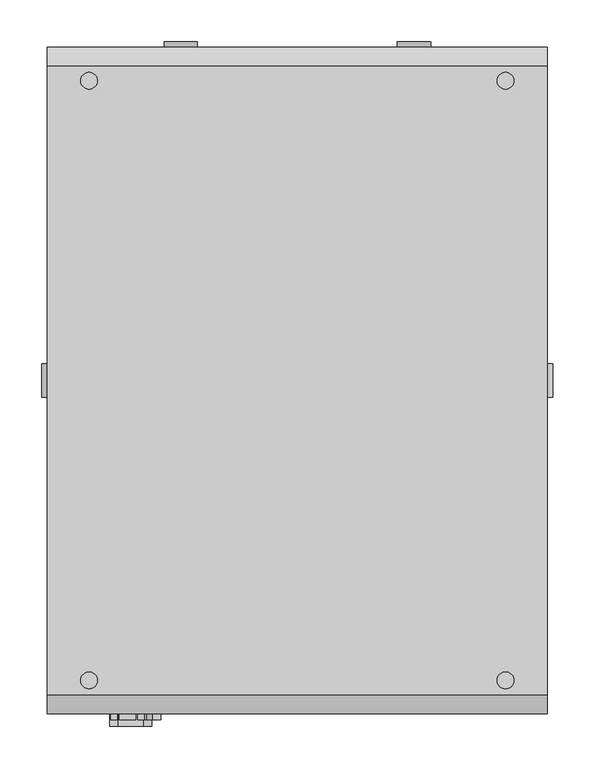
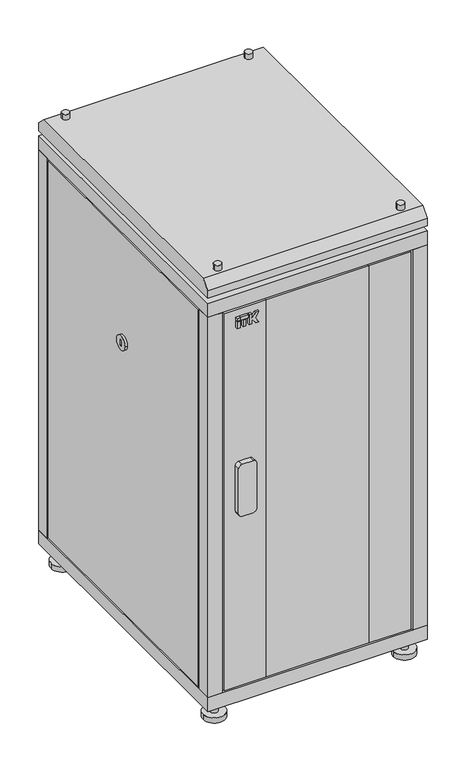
"""IFC4 building model written with IfcOpenShell, lengths in millimetres: proxy geometry, Шкафы ITK серия N_05 : LN05-24U68-G."""

from ifc_helpers import new_model, si_unit, point, frame, frame_2d, origin, origin_with_axes, place, context, project, spatial, polyline, circle_curve, trimmed, segment, composite_curve, outline, extrude, faceted_brep, source, transform, mapped, element, save
from ifc_brep_helpers import plane_surface, cylinder_surface, advanced_brep


def electrical_fixtures_91b9e2a3(model_context):
    return source(origin(), model_context, "Body", "SolidModel", [
        extrude(outline(polyline([(-215.9746193, -407.0), (-224.197592, -407.0), (-224.197592, -400.0), (-215.9746193, -400.0), (-215.9746193, -407.0)])), frame((0.0, 0.0, 1135.0), z_axis=(0.0, 0.0, 1.0), x_axis=(1.0, 0.0, 0.0)), (0.0, 0.0, 1.0), 18.8087618),
        extrude(outline(polyline([(-199.9605777, -407.0), (-207.7053315, -407.0), (-207.7053315, -400.0), (-199.9605777, -400.0), (-199.9605777, -407.0)])), frame((0.0, 0.0, 1135.0), z_axis=(0.0, 0.0, 1.0), x_axis=(1.0, 0.0, 0.0)), (0.0, 0.0, 1.0), 18.8087618),
        extrude(outline(polyline([(-215.9746193, -407.0), (-224.197592, -407.0), (-224.197592, -400.0), (-215.9746193, -400.0), (-215.9746193, -407.0)])), frame((0.0, 0.0, 1156.4305892), z_axis=(0.0, 0.0, 1.0), x_axis=(1.0, 0.0, 0.0)), (0.0, 0.0, 1.0), 7.9794747),
        extrude(outline(polyline([(1135.0, -191.5184175), (1135.0, -183.7669278), (1146.0271455, -183.7669278), (1146.0271455, -180.8031229), (1135.0, -173.6420108), (1135.0, -164.197592), (1149.7278745, -174.8980192), (1164.410064, -164.197592), (1164.410064, -173.6420108), (1153.3829184, -180.8031229), (1153.3829184, -183.7669278), (1164.410064, -183.7669278), (1164.410064, -191.5184175), (1135.0, -191.5184175)])), frame((0.0, -407.0, 0.0), z_axis=(0.0, 1.0, 0.0), x_axis=(0.0, 0.0, 1.0)), (0.0, 0.0, 1.0), 7.0),
        extrude(outline(polyline([(-194.0851324, -407.0), (-213.5807768, -407.0), (-213.5807768, -400.0), (-194.0851324, -400.0), (-194.0851324, -407.0)])), frame((0.0, 0.0, 1156.4305892), z_axis=(0.0, 0.0, 1.0), x_axis=(1.0, 0.0, 0.0)), (0.0, 0.0, 1.0), 7.9794747),
        extrude(outline(composite_curve([segment(polyline([(745.0, -185.0), (745.0, -215.0)]), True, "CONTINUOUS"), segment(trimmed(circle_curve(frame_2d((735.0, -215.0)), 10.0), [point((745.0, -215.0))], [point((735.0, -225.0))], False, "CARTESIAN"), True, "CONTINUOUS"), segment(polyline([(735.0, -225.0), (605.0, -225.0)]), True, "CONTINUOUS"), segment(trimmed(circle_curve(frame_2d((605.0, -215.0)), 10.0), [point((605.0, -225.0))], [point((595.0, -215.0))], False, "CARTESIAN"), True, "CONTINUOUS"), segment(polyline([(595.0, -215.0), (595.0, -185.0)]), True, "CONTINUOUS"), segment(trimmed(circle_curve(frame_2d((605.0, -185.0)), 10.0), [point((595.0, -185.0))], [point((605.0, -175.0))], False, "CARTESIAN"), True, "CONTINUOUS"), segment(polyline([(605.0, -175.0), (735.0, -175.0)]), True, "CONTINUOUS"), segment(trimmed(circle_curve(frame_2d((735.0, -185.0)), 10.0), [point((735.0, -175.0))], [point((745.0, -185.0))], False, "CARTESIAN"), True, "CONTINUOUS")], self_intersect=False)), frame((0.0, -415.0, 0.0), z_axis=(0.0, 1.0, 0.0), x_axis=(0.0, 0.0, 1.0)), (0.0, 0.0, 1.0), 15.0),
        extrude(outline(polyline([(140.0, -380.0), (140.0, -400.0), (-140.0, -400.0), (-140.0, -380.0), (140.0, -380.0)])), frame((0.0, 0.0, 95.0), z_axis=(0.0, 0.0, 1.0), x_axis=(1.0, 0.0, 0.0)), (0.0, 0.0, 1.0), 1090.0),
        extrude(outline(polyline([(255.0, -380.0), (255.0, -400.0), (140.0, -400.0), (140.0, -380.0), (235.0, -380.0), (235.0, -365.0), (245.0, -365.0), (245.0, -380.0), (255.0, -380.0)])), frame((0.0, 0.0, 95.0), z_axis=(0.0, 0.0, 1.0), x_axis=(1.0, 0.0, 0.0)), (0.0, 0.0, 1.0), 1090.0),
        extrude(outline(polyline([(-140.0, -400.0), (-255.0, -400.0), (-255.0, -380.0), (-245.0, -380.0), (-245.0, -365.0), (-235.0, -365.0), (-235.0, -380.0), (-140.0, -380.0), (-140.0, -400.0)])), frame((0.0, 0.0, 95.0), z_axis=(0.0, 0.0, 1.0), x_axis=(1.0, 0.0, 0.0)), (0.0, 0.0, 1.0), 1090.0),
        extrude(outline(composite_curve([segment(trimmed(circle_curve(frame_2d((-260.0, 360.0)), 10.0), [point((-250.0, 360.0))], [point((-270.0, 360.0))], False, "CARTESIAN"), True, "CONTINUOUS"), segment(trimmed(circle_curve(frame_2d((-260.0, 360.0)), 10.0), [point((-270.0, 360.0))], [point((-250.0, 360.0))], False, "CARTESIAN"), True, "CONTINUOUS")], self_intersect=False)), frame((0.0, 0.0, 15.0), z_axis=(0.0, 0.0, 1.0), x_axis=(1.0, 0.0, 0.0)), (0.0, 0.0, 1.0), 35.0),
        extrude(outline(composite_curve([segment(trimmed(circle_curve(frame_2d((260.0, 360.0)), 10.0), [point((270.0, 360.0))], [point((250.0, 360.0))], False, "CARTESIAN"), True, "CONTINUOUS"), segment(trimmed(circle_curve(frame_2d((260.0, 360.0)), 10.0), [point((250.0, 360.0))], [point((270.0, 360.0))], False, "CARTESIAN"), True, "CONTINUOUS")], self_intersect=False)), frame((0.0, 0.0, 15.0), z_axis=(0.0, 0.0, 1.0), x_axis=(1.0, 0.0, 0.0)), (0.0, 0.0, 1.0), 35.0),
        extrude(outline(composite_curve([segment(trimmed(circle_curve(frame_2d((-260.0, -360.0)), 10.0), [point((-250.0, -360.0))], [point((-270.0, -360.0))], False, "CARTESIAN"), True, "CONTINUOUS"), segment(trimmed(circle_curve(frame_2d((-260.0, -360.0)), 10.0), [point((-270.0, -360.0))], [point((-250.0, -360.0))], False, "CARTESIAN"), True, "CONTINUOUS")], self_intersect=False)), frame((0.0, 0.0, 15.0), z_axis=(0.0, 0.0, 1.0), x_axis=(1.0, 0.0, 0.0)), (0.0, 0.0, 1.0), 35.0),
        extrude(outline(composite_curve([segment(trimmed(circle_curve(frame_2d((260.0, -360.0)), 10.0), [point((270.0, -360.0))], [point((250.0, -360.0))], False, "CARTESIAN"), True, "CONTINUOUS"), segment(trimmed(circle_curve(frame_2d((260.0, -360.0)), 10.0), [point((250.0, -360.0))], [point((270.0, -360.0))], False, "CARTESIAN"), True, "CONTINUOUS")], self_intersect=False)), frame((0.0, 0.0, 15.0), z_axis=(0.0, 0.0, 1.0), x_axis=(1.0, 0.0, 0.0)), (0.0, 0.0, 1.0), 35.0),
        extrude(outline(composite_curve([segment(trimmed(circle_curve(frame_2d((-260.0, 360.0)), 30.0), [point((-230.0, 360.0))], [point((-290.0, 360.0))], False, "CARTESIAN"), True, "CONTINUOUS"), segment(trimmed(circle_curve(frame_2d((-260.0, 360.0)), 30.0), [point((-290.0, 360.0))], [point((-230.0, 360.0))], False, "CARTESIAN"), True, "CONTINUOUS")], self_intersect=False)), origin_with_axes(), (0.0, 0.0, 1.0), 15.0),
        extrude(outline(composite_curve([segment(trimmed(circle_curve(frame_2d((260.0, 360.0)), 30.0), [point((290.0, 360.0))], [point((230.0, 360.0))], False, "CARTESIAN"), True, "CONTINUOUS"), segment(trimmed(circle_curve(frame_2d((260.0, 360.0)), 30.0), [point((230.0, 360.0))], [point((290.0, 360.0))], False, "CARTESIAN"), True, "CONTINUOUS")], self_intersect=False)), origin_with_axes(), (0.0, 0.0, 1.0), 15.0),
        extrude(outline(composite_curve([segment(trimmed(circle_curve(frame_2d((-260.0, -360.0)), 30.0), [point((-230.0, -360.0))], [point((-290.0, -360.0))], False, "CARTESIAN"), True, "CONTINUOUS"), segment(trimmed(circle_curve(frame_2d((-260.0, -360.0)), 30.0), [point((-290.0, -360.0))], [point((-230.0, -360.0))], False, "CARTESIAN"), True, "CONTINUOUS")], self_intersect=False)), origin_with_axes(), (0.0, 0.0, 1.0), 15.0),
        extrude(outline(composite_curve([segment(trimmed(circle_curve(frame_2d((260.0, -360.0)), 30.0), [point((290.0, -360.0))], [point((230.0, -360.0))], False, "CARTESIAN"), True, "CONTINUOUS"), segment(trimmed(circle_curve(frame_2d((260.0, -360.0)), 30.0), [point((230.0, -360.0))], [point((290.0, -360.0))], False, "CARTESIAN"), True, "CONTINUOUS")], self_intersect=False)), origin_with_axes(), (0.0, 0.0, 1.0), 15.0),
        advanced_brep(
        [(260.0, 360.0, 1305.0), (240.0, 360.0, 1305.0), (260.0, -360.0, 1305.0), (240.0, -360.0, 1305.0), (-240.0, 360.0, 1305.0), (-260.0, 360.0, 1305.0), (-240.0, -360.0, 1305.0), (-260.0, -360.0, 1305.0), (260.0, 360.0, 1230.0), (240.0, 360.0, 1230.0), (260.0, -360.0, 1230.0), (240.0, -360.0, 1230.0), (-240.0, 360.0, 1230.0), (-260.0, 360.0, 1230.0), (-240.0, -360.0, 1230.0), (-260.0, -360.0, 1230.0), (260.0, 360.0, 1290.0), (240.0, 360.0, 1290.0), (240.0, 360.0, 1245.0), (260.0, 360.0, 1245.0), (260.0, -360.0, 1290.0), (240.0, -360.0, 1290.0), (240.0, -360.0, 1245.0), (260.0, -360.0, 1245.0), (-240.0, 360.0, 1290.0), (-260.0, 360.0, 1290.0), (-260.0, 360.0, 1245.0), (-240.0, 360.0, 1245.0), (-240.0, -360.0, 1290.0), (-260.0, -360.0, 1290.0), (-260.0, -360.0, 1245.0), (-240.0, -360.0, 1245.0), (300.0, 377.5, 1290.0), (300.0, -377.5, 1290.0), (300.0, -400.0, 1267.5), (300.0, -400.0, 1245.0), (300.0, 400.0, 1245.0), (300.0, 400.0, 1267.5), (-300.0, 377.5, 1290.0), (-300.0, 400.0, 1267.5), (-300.0, 400.0, 1245.0), (-300.0, -400.0, 1245.0), (-300.0, -400.0, 1267.5), (-300.0, -377.5, 1290.0)],
        [
            (0, 1, circle_curve(frame((250.0, 360.0, 1305.0), z_axis=(0.0, 0.0, 1.0), x_axis=(-1.0, 0.0, 0.0)), 10.0)),
            (1, 0, circle_curve(frame((250.0, 360.0, 1305.0), z_axis=(0.0, 0.0, 1.0), x_axis=(-1.0, 0.0, 0.0)), 10.0)),
            (2, 3, circle_curve(frame((250.0, -360.0, 1305.0), z_axis=(0.0, 0.0, 1.0), x_axis=(-1.0, 0.0, 0.0)), 10.0)),
            (3, 2, circle_curve(frame((250.0, -360.0, 1305.0), z_axis=(0.0, 0.0, 1.0), x_axis=(-1.0, 0.0, 0.0)), 10.0)),
            (4, 5, circle_curve(frame((-250.0, 360.0, 1305.0), z_axis=(0.0, 0.0, 1.0), x_axis=(-1.0, 0.0, 0.0)), 10.0)),
            (5, 4, circle_curve(frame((-250.0, 360.0, 1305.0), z_axis=(0.0, 0.0, 1.0), x_axis=(-1.0, 0.0, 0.0)), 10.0)),
            (6, 7, circle_curve(frame((-250.0, -360.0, 1305.0), z_axis=(0.0, 0.0, 1.0), x_axis=(-1.0, 0.0, 0.0)), 10.0)),
            (7, 6, circle_curve(frame((-250.0, -360.0, 1305.0), z_axis=(0.0, 0.0, 1.0), x_axis=(-1.0, 0.0, 0.0)), 10.0)),
            (8, 9, circle_curve(frame((250.0, 360.0, 1230.0), z_axis=(0.0, 0.0, -1.0), x_axis=(-1.0, 0.0, 0.0)), 10.0)),
            (9, 8, circle_curve(frame((250.0, 360.0, 1230.0), z_axis=(0.0, 0.0, -1.0), x_axis=(-1.0, 0.0, 0.0)), 10.0)),
            (10, 11, circle_curve(frame((250.0, -360.0, 1230.0), z_axis=(0.0, 0.0, -1.0), x_axis=(-1.0, 0.0, 0.0)), 10.0)),
            (11, 10, circle_curve(frame((250.0, -360.0, 1230.0), z_axis=(0.0, 0.0, -1.0), x_axis=(-1.0, 0.0, 0.0)), 10.0)),
            (12, 13, circle_curve(frame((-250.0, 360.0, 1230.0), z_axis=(0.0, 0.0, -1.0), x_axis=(-1.0, 0.0, 0.0)), 10.0)),
            (13, 12, circle_curve(frame((-250.0, 360.0, 1230.0), z_axis=(0.0, 0.0, -1.0), x_axis=(-1.0, 0.0, 0.0)), 10.0)),
            (14, 15, circle_curve(frame((-250.0, -360.0, 1230.0), z_axis=(0.0, 0.0, -1.0), x_axis=(-1.0, 0.0, 0.0)), 10.0)),
            (15, 14, circle_curve(frame((-250.0, -360.0, 1230.0), z_axis=(0.0, 0.0, -1.0), x_axis=(-1.0, 0.0, 0.0)), 10.0)),
            (0, 16),
            (16, 17, circle_curve(frame((250.0, 360.0, 1290.0), z_axis=(0.0, 0.0, 1.0), x_axis=(-1.0, 0.0, 0.0)), 10.0)),
            (17, 1),
            (9, 18),
            (18, 19, circle_curve(frame((250.0, 360.0, 1245.0), z_axis=(0.0, 0.0, -1.0), x_axis=(-1.0, 0.0, 0.0)), 10.0)),
            (19, 8),
            (17, 16, circle_curve(frame((250.0, 360.0, 1290.0), z_axis=(0.0, 0.0, 1.0), x_axis=(-1.0, 0.0, 0.0)), 10.0)),
            (19, 18, circle_curve(frame((250.0, 360.0, 1245.0), z_axis=(0.0, 0.0, -1.0), x_axis=(-1.0, 0.0, 0.0)), 10.0)),
            (2, 20),
            (20, 21, circle_curve(frame((250.0, -360.0, 1290.0), z_axis=(0.0, 0.0, 1.0), x_axis=(-1.0, 0.0, 0.0)), 10.0)),
            (21, 3),
            (11, 22),
            (22, 23, circle_curve(frame((250.0, -360.0, 1245.0), z_axis=(0.0, 0.0, -1.0), x_axis=(-1.0, 0.0, 0.0)), 10.0)),
            (23, 10),
            (21, 20, circle_curve(frame((250.0, -360.0, 1290.0), z_axis=(0.0, 0.0, 1.0), x_axis=(-1.0, 0.0, 0.0)), 10.0)),
            (23, 22, circle_curve(frame((250.0, -360.0, 1245.0), z_axis=(0.0, 0.0, -1.0), x_axis=(-1.0, 0.0, 0.0)), 10.0)),
            (4, 24),
            (24, 25, circle_curve(frame((-250.0, 360.0, 1290.0), z_axis=(0.0, 0.0, 1.0), x_axis=(-1.0, 0.0, 0.0)), 10.0)),
            (25, 5),
            (13, 26),
            (26, 27, circle_curve(frame((-250.0, 360.0, 1245.0), z_axis=(0.0, 0.0, -1.0), x_axis=(-1.0, 0.0, 0.0)), 10.0)),
            (27, 12),
            (25, 24, circle_curve(frame((-250.0, 360.0, 1290.0), z_axis=(0.0, 0.0, 1.0), x_axis=(-1.0, 0.0, 0.0)), 10.0)),
            (27, 26, circle_curve(frame((-250.0, 360.0, 1245.0), z_axis=(0.0, 0.0, -1.0), x_axis=(-1.0, 0.0, 0.0)), 10.0)),
            (6, 28),
            (28, 29, circle_curve(frame((-250.0, -360.0, 1290.0), z_axis=(0.0, 0.0, 1.0), x_axis=(-1.0, 0.0, 0.0)), 10.0)),
            (29, 7),
            (15, 30),
            (30, 31, circle_curve(frame((-250.0, -360.0, 1245.0), z_axis=(0.0, 0.0, -1.0), x_axis=(-1.0, 0.0, 0.0)), 10.0)),
            (31, 14),
            (29, 28, circle_curve(frame((-250.0, -360.0, 1290.0), z_axis=(0.0, 0.0, 1.0), x_axis=(-1.0, 0.0, 0.0)), 10.0)),
            (31, 30, circle_curve(frame((-250.0, -360.0, 1245.0), z_axis=(0.0, 0.0, -1.0), x_axis=(-1.0, 0.0, 0.0)), 10.0)),
            (32, 33),
            (33, 34),
            (34, 35),
            (35, 36),
            (36, 37),
            (37, 32),
            (38, 39),
            (39, 40),
            (40, 41),
            (41, 42),
            (42, 43),
            (43, 38),
            (32, 38),
            (43, 33),
            (42, 34),
            (41, 35),
            (40, 36),
            (39, 37),
        ],
        [
            plane_surface(frame((240.0, 360.0, 1305.0), z_axis=(0.0, 0.0, 1.0), x_axis=(0.0, -1.0, 0.0))),
            plane_surface(frame((240.0, 360.0, 1230.0), z_axis=(0.0, 0.0, -1.0), x_axis=(0.0, 1.0, 0.0))),
            cylinder_surface(frame((250.0, 360.0, 1230.0), z_axis=(0.0, 0.0, 1.0), x_axis=(-1.0, 0.0, 0.0)), 10.0),
            cylinder_surface(frame((250.0, -360.0, 1710.0), z_axis=(0.0, 0.0, 1.0), x_axis=(-1.0, 0.0, 0.0)), 10.0),
            cylinder_surface(frame((-250.0, 360.0, 1710.0), z_axis=(0.0, 0.0, 1.0), x_axis=(-1.0, 0.0, 0.0)), 10.0),
            cylinder_surface(frame((-250.0, -360.0, 1710.0), z_axis=(0.0, 0.0, 1.0), x_axis=(-1.0, 0.0, 0.0)), 10.0),
            plane_surface(frame((300.0, -377.5, 1290.0), z_axis=(1.0, 0.0, 0.0), x_axis=(0.0, -1.0, 0.0))),
            plane_surface(frame((-300.0, -377.5, 1290.0), z_axis=(-1.0, 0.0, 0.0), x_axis=(0.0, 1.0, 0.0))),
            plane_surface(frame((300.0, 377.5, 1290.0), z_axis=(0.0, 0.0, 1.0), x_axis=(-1.0, 0.0, 0.0))),
            plane_surface(frame((300.0, -377.5, 1290.0), z_axis=(0.0, -0.7071067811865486, 0.7071067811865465), x_axis=(-1.0, 0.0, 0.0))),
            plane_surface(frame((300.0, -400.0, 1267.5), z_axis=(0.0, -1.0, 0.0), x_axis=(-1.0, 0.0, 0.0))),
            plane_surface(frame((300.0, -400.0, 1245.0), z_axis=(0.0, 0.0, -1.0), x_axis=(-1.0, 0.0, 0.0))),
            plane_surface(frame((300.0, 400.0, 1245.0), z_axis=(0.0, 1.0, 0.0), x_axis=(-1.0, 0.0, 0.0))),
            plane_surface(frame((300.0, 400.0, 1267.5), z_axis=(0.0, 0.7071067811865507, 0.7071067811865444), x_axis=(-1.0, 0.0, 0.0))),
        ],
        [
            (0, [[1, 2]]),
            (0, [[3, 4]]),
            (0, [[5, 6]]),
            (0, [[7, 8]]),
            (1, [[9, 10]]),
            (1, [[11, 12]]),
            (1, [[13, 14]]),
            (1, [[15, 16]]),
            (2, [[-1, 17, 18, 19]]),
            (2, [[-10, 20, 21, 22]]),
            (2, [[-2, -19, 23, -17]]),
            (2, [[-9, -22, 24, -20]]),
            (3, [[-3, 25, 26, 27]]),
            (3, [[-12, 28, 29, 30]]),
            (3, [[-4, -27, 31, -25]]),
            (3, [[-11, -30, 32, -28]]),
            (4, [[-5, 33, 34, 35]]),
            (4, [[-14, 36, 37, 38]]),
            (4, [[-6, -35, 39, -33]]),
            (4, [[-13, -38, 40, -36]]),
            (5, [[-7, 41, 42, 43]]),
            (5, [[-16, 44, 45, 46]]),
            (5, [[-8, -43, 47, -41]]),
            (5, [[-15, -46, 48, -44]]),
            (6, [[49, 50, 51, 52, 53, 54]]),
            (7, [[55, 56, 57, 58, 59, 60]]),
            (8, [[-49, 61, -60, 62], [-18, -23], [-26, -31], [-34, -39], [-42, -47]]),
            (9, [[-50, -62, -59, 63]]),
            (10, [[-51, -63, -58, 64]]),
            (11, [[-52, -64, -57, 65], [-21, -24], [-29, -32], [-37, -40], [-45, -48]]),
            (12, [[-53, -65, -56, 66]]),
            (13, [[-54, -66, -55, -61]]),
        ],
    ),
        extrude(outline(polyline([(260.0, 360.0), (260.0, 345.0), (290.0, 345.0), (290.0, -345.0), (260.0, -345.0), (260.0, -360.0), (245.0, -360.0), (245.0, -380.0), (-245.0, -380.0), (-245.0, -360.0), (-260.0, -360.0), (-260.0, -345.0), (-290.0, -345.0), (-290.0, 345.0), (-260.0, 345.0), (-260.0, 360.0), (-245.0, 360.0), (-245.0, 390.0), (245.0, 390.0), (245.0, 360.0), (260.0, 360.0)])), frame((0.0, 0.0, 90.0), z_axis=(0.0, 0.0, 1.0), x_axis=(1.0, 0.0, 0.0)), (0.0, 0.0, 1.0), 5.0),
        extrude(outline(polyline([(260.0, 360.0), (260.0, 345.0), (290.0, 345.0), (290.0, -345.0), (260.0, -345.0), (260.0, -360.0), (245.0, -360.0), (245.0, -380.0), (-245.0, -380.0), (-245.0, -360.0), (-260.0, -360.0), (-260.0, -345.0), (-290.0, -345.0), (-290.0, 345.0), (-260.0, 345.0), (-260.0, 360.0), (-245.0, 360.0), (-245.0, 390.0), (245.0, 390.0), (245.0, 360.0), (260.0, 360.0)])), frame((0.0, 0.0, 1185.0), z_axis=(0.0, 0.0, 1.0), x_axis=(1.0, 0.0, 0.0)), (0.0, 0.0, 1.0), 5.0),
        extrude(outline(polyline([(300.0, -400.0), (-300.0, -400.0), (-300.0, 400.0), (300.0, 400.0), (300.0, -400.0)])), frame((0.0, 0.0, 1190.0), z_axis=(0.0, 0.0, 1.0), x_axis=(1.0, 0.0, 0.0)), (0.0, 0.0, 1.0), 40.0),
        extrude(outline(polyline([(300.0, -400.0), (-300.0, -400.0), (-300.0, 400.0), (300.0, 400.0), (300.0, -400.0)])), frame((0.0, 0.0, 50.0), z_axis=(0.0, 0.0, 1.0), x_axis=(1.0, 0.0, 0.0)), (0.0, 0.0, 1.0), 40.0),
        extrude(outline(composite_curve([segment(trimmed(circle_curve(frame_2d((640.0, 140.0)), 20.0), [point((640.0, 160.0))], [point((640.0, 120.0))], False, "CARTESIAN"), True, "CONTINUOUS"), segment(trimmed(circle_curve(frame_2d((640.0, 140.0)), 20.0), [point((640.0, 120.0))], [point((640.0, 160.0))], False, "CARTESIAN"), True, "CONTINUOUS")], self_intersect=False), holes=[polyline([(631.7814397, 137.0), (648.2185603, 137.0), (648.2185603, 143.0), (631.7814397, 143.0), (631.7814397, 137.0)])]), frame((0.0, 400.0, 0.0), z_axis=(0.0, 1.0, 0.0), x_axis=(0.0, 0.0, 1.0)), (0.0, 0.0, 1.0), 7.0),
        extrude(outline(composite_curve([segment(trimmed(circle_curve(frame_2d((640.0, -140.0)), 20.0), [point((640.0, -120.0))], [point((640.0, -160.0))], False, "CARTESIAN"), True, "CONTINUOUS"), segment(trimmed(circle_curve(frame_2d((640.0, -140.0)), 20.0), [point((640.0, -160.0))], [point((640.0, -120.0))], False, "CARTESIAN"), True, "CONTINUOUS")], self_intersect=False), holes=[polyline([(631.7814397, -143.0), (648.2185603, -143.0), (648.2185603, -137.0), (631.7814397, -137.0), (631.7814397, -143.0)])]), frame((0.0, 400.0, 0.0), z_axis=(0.0, 1.0, 0.0), x_axis=(0.0, 0.0, 1.0)), (0.0, 0.0, 1.0), 7.0),
        faceted_brep([(255.0, 400.0, 1185.0), (-255.0, 400.0, 1185.0), (-255.0, 370.0, 1185.0), (-245.0, 370.0, 1185.0), (-245.0, 390.0, 1185.0), (245.0, 390.0, 1185.0), (245.0, 370.0, 1185.0), (255.0, 370.0, 1185.0), (255.0, 400.0, 1012.5265979), (-255.0, 400.0, 1012.5265979), (175.0, 400.0, 1060.0), (175.0, 400.0, 1140.0), (-175.0, 400.0, 1140.0), (-175.0, 400.0, 1060.0), (-255.0, 370.0, 1012.5265979), (-245.0, 370.0, 1012.5265979), (-245.0, 390.0, 1012.5265979), (245.0, 390.0, 1012.5265979), (175.0, 390.0, 1140.0), (175.0, 390.0, 1060.0), (-175.0, 390.0, 1060.0), (-175.0, 390.0, 1140.0), (245.0, 370.0, 1012.5265979), (255.0, 370.0, 1012.5265979)], [[[0, 1, 2, 3, 4, 5, 6, 7]], [[1, 0, 8, 9], [10, 11, 12, 13]], [[2, 1, 9, 14]], [[3, 2, 14, 15]], [[4, 3, 15, 16]], [[5, 4, 16, 17], [18, 19, 20, 21]], [[6, 5, 17, 22]], [[7, 6, 22, 23]], [[0, 7, 23, 8]], [[9, 8, 23, 22, 17, 16, 15, 14]], [[10, 19, 18, 11]], [[11, 18, 21, 12]], [[12, 21, 20, 13]], [[19, 10, 13, 20]]]),
        faceted_brep([(255.0, 400.0, 95.0), (255.0, 370.0, 95.0), (245.0, 370.0, 95.0), (245.0, 390.0, 95.0), (-245.0, 390.0, 95.0), (-245.0, 370.0, 95.0), (-255.0, 370.0, 95.0), (-255.0, 400.0, 95.0), (-255.0, 400.0, 267.4734021), (255.0, 400.0, 267.4734021), (175.0, 400.0, 220.0), (-175.0, 400.0, 220.0), (-175.0, 400.0, 140.0), (175.0, 400.0, 140.0), (-255.0, 370.0, 267.4734021), (-245.0, 370.0, 267.4734021), (-245.0, 390.0, 267.4734021), (245.0, 390.0, 267.4734021), (-175.0, 390.0, 220.0), (175.0, 390.0, 220.0), (175.0, 390.0, 140.0), (-175.0, 390.0, 140.0), (245.0, 370.0, 267.4734021), (255.0, 370.0, 267.4734021)], [[[0, 1, 2, 3, 4, 5, 6, 7]], [[0, 7, 8, 9], [10, 11, 12, 13]], [[7, 6, 14, 8]], [[6, 5, 15, 14]], [[5, 4, 16, 15]], [[4, 3, 17, 16], [18, 19, 20, 21]], [[3, 2, 22, 17]], [[2, 1, 23, 22]], [[1, 0, 9, 23]], [[9, 8, 14, 15, 16, 17, 22, 23]], [[10, 19, 18, 11]], [[11, 18, 21, 12]], [[12, 21, 20, 13]], [[19, 10, 13, 20]]]),
        faceted_brep([(255.0, 400.0, 1007.4734021), (255.0, 400.0, 272.5265979), (-255.0, 400.0, 272.5265979), (-255.0, 400.0, 1007.4734021), (-255.0, 370.0, 272.5265979), (-255.0, 370.0, 1007.4734021), (-245.0, 370.0, 272.5265979), (-245.0, 370.0, 1007.4734021), (-245.0, 390.0, 272.5265979), (-245.0, 390.0, 1007.4734021), (245.0, 390.0, 272.5265979), (245.0, 390.0, 1007.4734021), (245.0, 370.0, 272.5265979), (245.0, 370.0, 1007.4734021), (255.0, 370.0, 272.5265979), (255.0, 370.0, 1007.4734021)], [[[0, 1, 2, 3]], [[3, 2, 4, 5]], [[5, 4, 6, 7]], [[7, 6, 8, 9]], [[9, 8, 10, 11]], [[11, 10, 12, 13]], [[13, 12, 14, 15]], [[1, 0, 15, 14]], [[2, 1, 14, 12, 10, 8, 6, 4]], [[0, 3, 5, 7, 9, 11, 13, 15]]]),
        faceted_brep([(-170.0, 400.0, 215.0), (170.0, 400.0, 215.0), (170.0, 400.0, 145.0), (-170.0, 400.0, 145.0), (170.0, 390.0, 215.0), (-170.0, 390.0, 215.0), (-170.0, 390.0, 145.0), (170.0, 390.0, 145.0)], [[[0, 1, 2, 3]], [[4, 5, 6, 7]], [[0, 5, 4, 1]], [[1, 4, 7, 2]], [[2, 7, 6, 3]], [[5, 0, 3, 6]]]),
        faceted_brep([(-170.0, 400.0, 1065.0), (-170.0, 400.0, 1135.0), (170.0, 400.0, 1135.0), (170.0, 400.0, 1065.0), (-170.0, 390.0, 1135.0), (-170.0, 390.0, 1065.0), (170.0, 390.0, 1065.0), (170.0, 390.0, 1135.0)], [[[0, 1, 2, 3]], [[4, 5, 6, 7]], [[0, 5, 4, 1]], [[1, 4, 7, 2]], [[2, 7, 6, 3]], [[5, 0, 3, 6]]]),
        extrude(outline(composite_curve([segment(trimmed(circle_curve(frame_2d((0.0, 876.6666667)), 20.0), [point((-20.0, 876.6666667))], [point((20.0, 876.6666667))], False, "CARTESIAN"), True, "CONTINUOUS"), segment(trimmed(circle_curve(frame_2d((0.0, 876.6666667)), 20.0), [point((20.0, 876.6666667))], [point((-20.0, 876.6666667))], False, "CARTESIAN"), True, "CONTINUOUS")], self_intersect=False), holes=[polyline([(3.0, 868.4481063), (3.0, 884.885227), (-3.0, 884.885227), (-3.0, 868.4481063), (3.0, 868.4481063)])]), frame((300.0, 0.0, 0.0), z_axis=(1.0, 0.0, 0.0), x_axis=(0.0, 1.0, 0.0)), (0.0, 0.0, 1.0), 7.0),
        extrude(outline(composite_curve([segment(trimmed(circle_curve(frame_2d((0.0, 876.6666667)), 20.0), [point((20.0, 876.6666667))], [point((-20.0, 876.6666667))], False, "CARTESIAN"), True, "CONTINUOUS"), segment(trimmed(circle_curve(frame_2d((0.0, 876.6666667)), 20.0), [point((-20.0, 876.6666667))], [point((20.0, 876.6666667))], False, "CARTESIAN"), True, "CONTINUOUS")], self_intersect=False), holes=[polyline([(-3.0, 868.4481063), (3.0, 868.4481063), (3.0, 884.885227), (-3.0, 884.885227), (-3.0, 868.4481063)])]), frame((-307.0, 0.0, 0.0), z_axis=(1.0, 0.0, 0.0), x_axis=(0.0, 1.0, 0.0)), (0.0, 0.0, 1.0), 7.0),
        extrude(outline(polyline([(-270.0, 355.0), (-270.0, 345.0), (-289.9803177, 345.0), (-289.9803177, -345.0), (-269.9803177, -345.0), (-269.9803177, -355.0), (-300.0, -355.0), (-300.0, 355.0), (-270.0, 355.0)])), frame((0.0, 0.0, 95.0), z_axis=(0.0, 0.0, 1.0), x_axis=(1.0, 0.0, 0.0)), (0.0, 0.0, 1.0), 1090.0),
        extrude(outline(polyline([(269.9803177, 355.0), (300.0, 355.0), (300.0, -355.0), (269.9803177, -355.0), (269.9803177, -345.0), (289.9803177, -345.0), (289.9803177, 345.0), (269.9803177, 345.0), (269.9803177, 355.0)])), frame((0.0, 0.0, 95.0), z_axis=(0.0, 0.0, 1.0), x_axis=(1.0, 0.0, 0.0)), (0.0, 0.0, 1.0), 1090.0),
        extrude(outline(polyline([(-270.0, -360.0), (-270.0, -345.0), (-260.0, -345.0), (-260.0, -360.0), (-245.0, -360.0), (-245.0, -380.0), (-260.0, -380.0), (-260.0, -400.0), (-300.0, -400.0), (-300.0, -360.0), (-270.0, -360.0)]), holes=[polyline([(-267.0, -363.0), (-297.0, -363.0), (-297.0, -397.0), (-263.0, -397.0), (-263.0, -377.0), (-248.0, -377.0), (-248.0, -363.0), (-263.0, -363.0), (-263.0, -348.0), (-267.0, -348.0), (-267.0, -363.0)])]), frame((0.0, 0.0, 90.0), z_axis=(0.0, 0.0, 1.0), x_axis=(1.0, 0.0, 0.0)), (0.0, 0.0, 1.0), 1100.0),
        extrude(outline(polyline([(270.0, -360.0), (300.0, -360.0), (300.0, -400.0), (260.0, -400.0), (260.0, -380.0), (245.0, -380.0), (245.0, -360.0), (260.0, -360.0), (260.0, -345.0), (270.0, -345.0), (270.0, -360.0)]), holes=[polyline([(297.0, -397.0), (297.0, -363.0), (267.0, -363.0), (267.0, -348.0), (263.0, -348.0), (263.0, -363.0), (248.0, -363.0), (248.0, -377.0), (263.0, -377.0), (263.0, -397.0), (297.0, -397.0)])]), frame((0.0, 0.0, 90.0), z_axis=(0.0, 0.0, 1.0), x_axis=(1.0, 0.0, 0.0)), (0.0, 0.0, 1.0), 1100.0),
        extrude(outline(polyline([(270.0, 360.0), (270.0, 345.0), (260.0, 345.0), (260.0, 360.0), (245.0, 360.0), (245.0, 370.0), (260.0, 370.0), (260.0, 400.0), (300.0, 400.0), (300.0, 360.0), (270.0, 360.0)]), holes=[polyline([(297.0, 363.0), (297.0, 397.0), (263.0, 397.0), (263.0, 367.0), (248.0, 367.0), (248.0, 363.0), (263.0, 363.0), (263.0, 348.0), (267.0, 348.0), (267.0, 363.0), (297.0, 363.0)])]), frame((0.0, 0.0, 90.0), z_axis=(0.0, 0.0, 1.0), x_axis=(1.0, 0.0, 0.0)), (0.0, 0.0, 1.0), 1100.0),
        extrude(outline(polyline([(-270.0, 360.0), (-300.0, 360.0), (-300.0, 400.0), (-260.0, 400.0), (-260.0, 370.0), (-245.0, 370.0), (-245.0, 360.0), (-260.0, 360.0), (-260.0, 345.0), (-270.0, 345.0), (-270.0, 360.0)]), holes=[polyline([(-297.0, 397.0), (-297.0, 363.0), (-267.0, 363.0), (-267.0, 348.0), (-263.0, 348.0), (-263.0, 363.0), (-248.0, 363.0), (-248.0, 367.0), (-263.0, 367.0), (-263.0, 397.0), (-297.0, 397.0)])]), frame((0.0, 0.0, 90.0), z_axis=(0.0, 0.0, 1.0), x_axis=(1.0, 0.0, 0.0)), (0.0, 0.0, 1.0), 1100.0),
    ])


if __name__ == "__main__":
    model = new_model("IFC4")
    model_context = context("Model", 3, world=origin())
    ifc_project = project(units=[si_unit("LENGTHUNIT", "METRE", prefix="MILLI")], contexts=[model_context])
    site = spatial("IfcSite", under=ifc_project)
    building = spatial("IfcBuilding", under=site)
    placement = place(None, origin())
    electrical_fixtures_shape = electrical_fixtures_91b9e2a3(model_context)
    element("IfcBuildingElementProxy", 1, Name="Шкафы ITK серия N_05 : LN05-24U68-G", ObjectType="Шкафы ITK серия N_05 : LN05-24U68-G", at=placement, inside=building, context=model_context, shape_type="MappedRepresentation", body=[
        mapped(electrical_fixtures_shape, transform((0.0, 0.0, 0.0), x_axis=(1.0, 0.0, 0.0), y_axis=(0.0, 1.0, 0.0), z_axis=(0.0, 0.0, 1.0))),
    ])
    save(model, "model.ifc")
